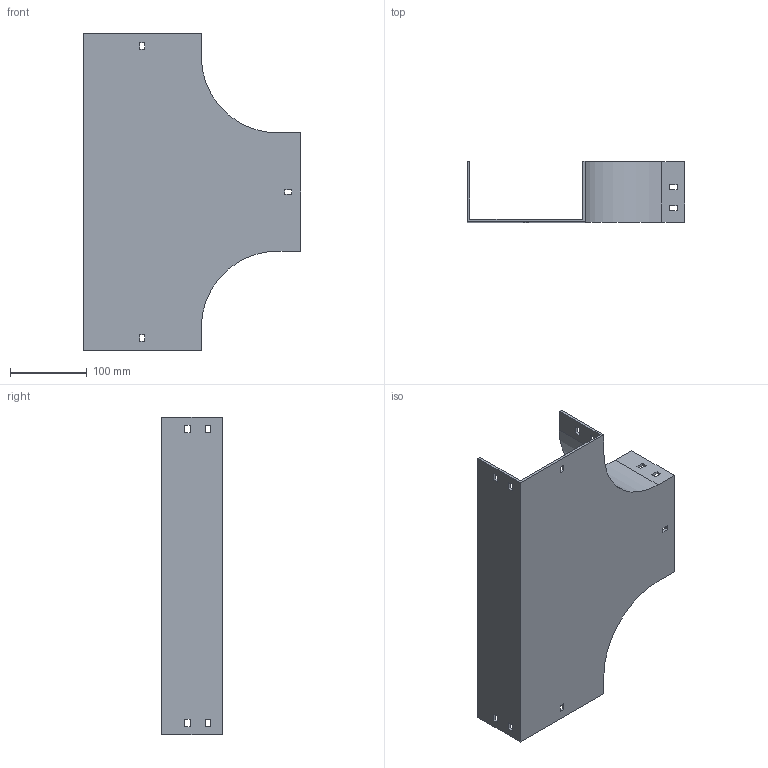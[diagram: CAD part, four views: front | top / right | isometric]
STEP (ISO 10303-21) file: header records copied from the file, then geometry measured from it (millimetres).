
FILE_DESCRIPTION (( 'STEP AP214' ), '1' );
FILE_NAME ('15F1C150.step', '2025-02-21T13:04:40', ( '' ), ( '' ), 'SwSTEP 2.0', 'SolidWorks 2023', '' );
FILE_SCHEMA (( 'AUTOMOTIVE_DESIGN' ));
Length unit declared in the file: millimetre
Products named in the file (1): 15F1C150
Bounding box: 284 x 79 x 414 mm (x, y, z)
Volume: 530262.8 mm3; surface area: 310931.8 mm2
Topology: 1 solids, 1 shells, 82 faces, 240 edges, 160 vertices
Faces by surface type: plane 78, cylinder 4
Entity records: 2755 total; most frequent: CARTESIAN_POINT 483, ORIENTED_EDGE 480, DIRECTION 414, EDGE_CURVE 240, LINE 232, VECTOR 232, VERTEX_POINT 160, EDGE_LOOP 112
